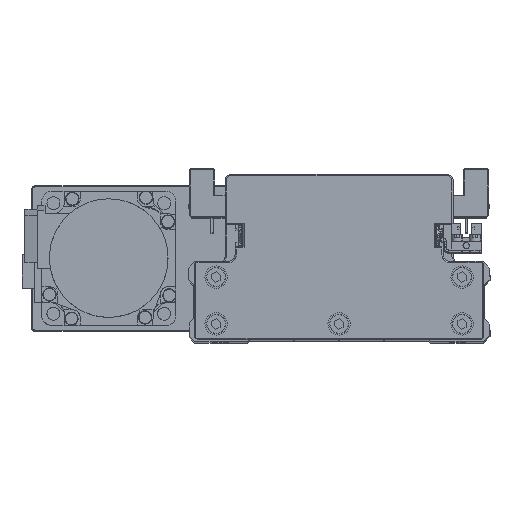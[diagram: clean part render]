
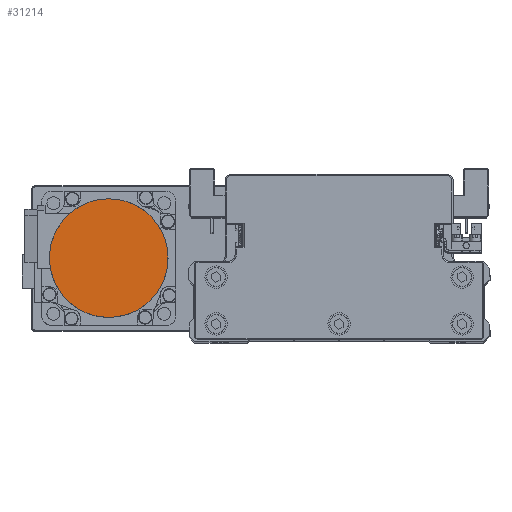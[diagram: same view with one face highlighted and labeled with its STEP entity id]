
A CAD part, top view. The second image highlights one B-rep face of the part: STEP entity #31214.
In plain terms, the highlighted planar face has unit normal (0, 0, 1) as drawn and (0, 0, -1) by its records, which use the part's own axes.
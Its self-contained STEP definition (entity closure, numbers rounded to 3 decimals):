
#452 = CARTESIAN_POINT ( 'NONE',  ( -26.5, 0., -109.7 ) ) ;
#658 = CARTESIAN_POINT ( 'NONE',  ( -8.539, -25.147, -109.7 ) ) ;
#846 = CARTESIAN_POINT ( 'NONE',  ( 21.07, -16.165, -109.7 ) ) ;
#2384 = CARTESIAN_POINT ( 'NONE',  ( 26.5, 1.734, -109.7 ) ) ;
#2599 = CARTESIAN_POINT ( 'NONE',  ( 6.871, 25.652, -109.7 ) ) ;
#2802 = CARTESIAN_POINT ( 'NONE',  ( -22.998, 13.28, -109.7 ) ) ;
#3702 = CARTESIAN_POINT ( 'NONE',  ( -16.165, -21.07, -109.7 ) ) ;
#3907 = CARTESIAN_POINT ( 'NONE',  ( 16.165, -21.07, -109.7 ) ) ;
#5131 = EDGE_LOOP ( 'NONE', ( #11267, #20431 ) ) ;
#5634 = CARTESIAN_POINT ( 'NONE',  ( 13.28, 22.998, -109.7 ) ) ;
#5853 = CARTESIAN_POINT ( 'NONE',  ( -17.512, 19.965, -109.7 ) ) ;
#6745 = CARTESIAN_POINT ( 'NONE',  ( -21.07, -16.165, -109.7 ) ) ;
#6940 = CARTESIAN_POINT ( 'NONE',  ( 8.539, -25.147, -109.7 ) ) ;
#7154 = CARTESIAN_POINT ( 'NONE',  ( 26.5, 0., -109.7 ) ) ;
#8671 = CARTESIAN_POINT ( 'NONE',  ( 19.965, 17.512, -109.7 ) ) ;
#8879 = CARTESIAN_POINT ( 'NONE',  ( -11.744, 23.819, -109.7 ) ) ;
#9170 = VERTEX_POINT ( 'NONE', #29797 ) ;
#9796 = CARTESIAN_POINT ( 'NONE',  ( -25.147, -8.539, -109.7 ) ) ;
#9985 = CARTESIAN_POINT ( 'NONE',  ( 1.734, -26.5, -109.7 ) ) ;
#10186 = CARTESIAN_POINT ( 'NONE',  ( 25.652, -6.871, -109.7 ) ) ;
#11097 = DIRECTION ( 'NONE',  ( 0., 0., 1. ) ) ;
#11267 = ORIENTED_EDGE ( 'NONE', *, *, #16021, .F. ) ;
#11712 = CARTESIAN_POINT ( 'NONE',  ( 23.819, 11.744, -109.7 ) ) ;
#11910 = CARTESIAN_POINT ( 'NONE',  ( -3.469, 26.329, -109.7 ) ) ;
#12112 = CARTESIAN_POINT ( 'NONE',  ( -26.329, 3.469, -109.7 ) ) ;
#12807 = CARTESIAN_POINT ( 'NONE',  ( -26.5, -1.734, -109.7 ) ) ;
#13009 = CARTESIAN_POINT ( 'NONE',  ( -6.871, -25.652, -109.7 ) ) ;
#13202 = CARTESIAN_POINT ( 'NONE',  ( 22.998, -13.28, -109.7 ) ) ;
#14115 = FACE_OUTER_BOUND ( 'NONE', #5131, .T. ) ;
#14730 = CARTESIAN_POINT ( 'NONE',  ( 26.329, 3.469, -109.7 ) ) ;
#14947 = CARTESIAN_POINT ( 'NONE',  ( 3.469, 26.329, -109.7 ) ) ;
#15142 = CARTESIAN_POINT ( 'NONE',  ( -23.819, 11.744, -109.7 ) ) ;
#15218 = VERTEX_POINT ( 'NONE', #32339 ) ;
#16021 = EDGE_CURVE ( 'NONE', #9170, #15218, #30625, .T. ) ;
#16042 = CARTESIAN_POINT ( 'NONE',  ( -13.28, -22.998, -109.7 ) ) ;
#16248 = CARTESIAN_POINT ( 'NONE',  ( 17.512, -19.965, -109.7 ) ) ;
#16367 = AXIS2_PLACEMENT_3D ( 'NONE', #38806, #11097, #23412 ) ;
#17968 = CARTESIAN_POINT ( 'NONE',  ( 11.744, 23.819, -109.7 ) ) ;
#18103 = EDGE_CURVE ( 'NONE', #15218, #9170, #21848, .T. ) ;
#18178 = CARTESIAN_POINT ( 'NONE',  ( -19.965, 17.512, -109.7 ) ) ;
#19073 = CARTESIAN_POINT ( 'NONE',  ( -19.965, -17.512, -109.7 ) ) ;
#19276 = CARTESIAN_POINT ( 'NONE',  ( 11.744, -23.819, -109.7 ) ) ;
#20431 = ORIENTED_EDGE ( 'NONE', *, *, #18103, .F. ) ;
#20998 = CARTESIAN_POINT ( 'NONE',  ( 17.512, 19.965, -109.7 ) ) ;
#21204 = CARTESIAN_POINT ( 'NONE',  ( -13.28, 22.998, -109.7 ) ) ;
#21848 = B_SPLINE_CURVE_WITH_KNOTS ( 'NONE', 3,
 ( #452, #12807, #25138, #37496, #9796, #22108, #34450, #6745, #19073, #31408, #3702, #16042, #28372, #658, #13009, #25331, #37688, #9985, #22301, #34646, #6940, #19276, #31621, #3907, #16248, #28567, #846, #13202, #25530, #37882, #10186, #22501, #34853, #7154 ),
 .UNSPECIFIED., .F., .F.,
 ( 4, 2, 2, 2, 2, 2, 2, 2, 2, 2, 2, 2, 2, 2, 2, 2, 4 ),
 ( 0., 0.063, 0.125, 0.188, 0.25, 0.312, 0.375, 0.437, 0.5, 0.562, 0.625, 0.687, 0.75, 0.813, 0.875, 0.938, 1. ),
 .UNSPECIFIED. ) ;
#22108 = CARTESIAN_POINT ( 'NONE',  ( -23.819, -11.744, -109.7 ) ) ;
#22301 = CARTESIAN_POINT ( 'NONE',  ( 3.469, -26.329, -109.7 ) ) ;
#22501 = CARTESIAN_POINT ( 'NONE',  ( 26.329, -3.469, -109.7 ) ) ;
#23412 = DIRECTION ( 'NONE',  ( 1., 0., 0. ) ) ;
#24036 = CARTESIAN_POINT ( 'NONE',  ( 22.998, 13.28, -109.7 ) ) ;
#24224 = CARTESIAN_POINT ( 'NONE',  ( -6.871, 25.652, -109.7 ) ) ;
#24429 = CARTESIAN_POINT ( 'NONE',  ( -26.5, 1.734, -109.7 ) ) ;
#25138 = CARTESIAN_POINT ( 'NONE',  ( -26.329, -3.469, -109.7 ) ) ;
#25331 = CARTESIAN_POINT ( 'NONE',  ( -3.469, -26.329, -109.7 ) ) ;
#25530 = CARTESIAN_POINT ( 'NONE',  ( 23.819, -11.744, -109.7 ) ) ;
#26448 = PLANE ( 'NONE',  #16367 ) ;
#27064 = CARTESIAN_POINT ( 'NONE',  ( 25.652, 6.871, -109.7 ) ) ;
#27266 = CARTESIAN_POINT ( 'NONE',  ( 1.734, 26.5, -109.7 ) ) ;
#27458 = CARTESIAN_POINT ( 'NONE',  ( -25.147, 8.539, -109.7 ) ) ;
#28372 = CARTESIAN_POINT ( 'NONE',  ( -11.744, -23.819, -109.7 ) ) ;
#28567 = CARTESIAN_POINT ( 'NONE',  ( 19.965, -17.512, -109.7 ) ) ;
#29797 = CARTESIAN_POINT ( 'NONE',  ( 26.5, 0., -109.7 ) ) ;
#30092 = CARTESIAN_POINT ( 'NONE',  ( 26.5, 0., -109.7 ) ) ;
#30307 = CARTESIAN_POINT ( 'NONE',  ( 8.539, 25.147, -109.7 ) ) ;
#30509 = CARTESIAN_POINT ( 'NONE',  ( -21.07, 16.165, -109.7 ) ) ;
#30625 = B_SPLINE_CURVE_WITH_KNOTS ( 'NONE', 3,
 ( #30092, #2384, #14730, #27064, #39424, #11712, #24036, #36382, #8671, #20998, #33340, #5634, #17968, #30307, #2599, #14947, #27266, #39624, #11910, #24224, #36579, #8879, #21204, #33550, #5853, #18178, #30509, #2802, #15142, #27458, #39816, #12112, #24429, #36790 ),
 .UNSPECIFIED., .F., .F.,
 ( 4, 2, 2, 2, 2, 2, 2, 2, 2, 2, 2, 2, 2, 2, 2, 2, 4 ),
 ( 0., 0.062, 0.125, 0.187, 0.25, 0.312, 0.375, 0.437, 0.5, 0.562, 0.625, 0.687, 0.75, 0.813, 0.875, 0.938, 1. ),
 .UNSPECIFIED. ) ;
#31214 = ADVANCED_FACE ( 'NONE', ( #14115 ), #26448, .F. ) ;
#31408 = CARTESIAN_POINT ( 'NONE',  ( -17.512, -19.965, -109.7 ) ) ;
#31621 = CARTESIAN_POINT ( 'NONE',  ( 13.28, -22.998, -109.7 ) ) ;
#32339 = CARTESIAN_POINT ( 'NONE',  ( -26.5, 0., -109.7 ) ) ;
#33340 = CARTESIAN_POINT ( 'NONE',  ( 16.165, 21.07, -109.7 ) ) ;
#33550 = CARTESIAN_POINT ( 'NONE',  ( -16.165, 21.07, -109.7 ) ) ;
#34450 = CARTESIAN_POINT ( 'NONE',  ( -22.998, -13.28, -109.7 ) ) ;
#34646 = CARTESIAN_POINT ( 'NONE',  ( 6.871, -25.652, -109.7 ) ) ;
#34853 = CARTESIAN_POINT ( 'NONE',  ( 26.5, -1.734, -109.7 ) ) ;
#36382 = CARTESIAN_POINT ( 'NONE',  ( 21.07, 16.165, -109.7 ) ) ;
#36579 = CARTESIAN_POINT ( 'NONE',  ( -8.539, 25.147, -109.7 ) ) ;
#36790 = CARTESIAN_POINT ( 'NONE',  ( -26.5, 0., -109.7 ) ) ;
#37496 = CARTESIAN_POINT ( 'NONE',  ( -25.652, -6.871, -109.7 ) ) ;
#37688 = CARTESIAN_POINT ( 'NONE',  ( -1.734, -26.5, -109.7 ) ) ;
#37882 = CARTESIAN_POINT ( 'NONE',  ( 25.147, -8.539, -109.7 ) ) ;
#38806 = CARTESIAN_POINT ( 'NONE',  ( 0., 0., -109.7 ) ) ;
#39424 = CARTESIAN_POINT ( 'NONE',  ( 25.147, 8.539, -109.7 ) ) ;
#39624 = CARTESIAN_POINT ( 'NONE',  ( -1.734, 26.5, -109.7 ) ) ;
#39816 = CARTESIAN_POINT ( 'NONE',  ( -25.652, 6.871, -109.7 ) ) ;
